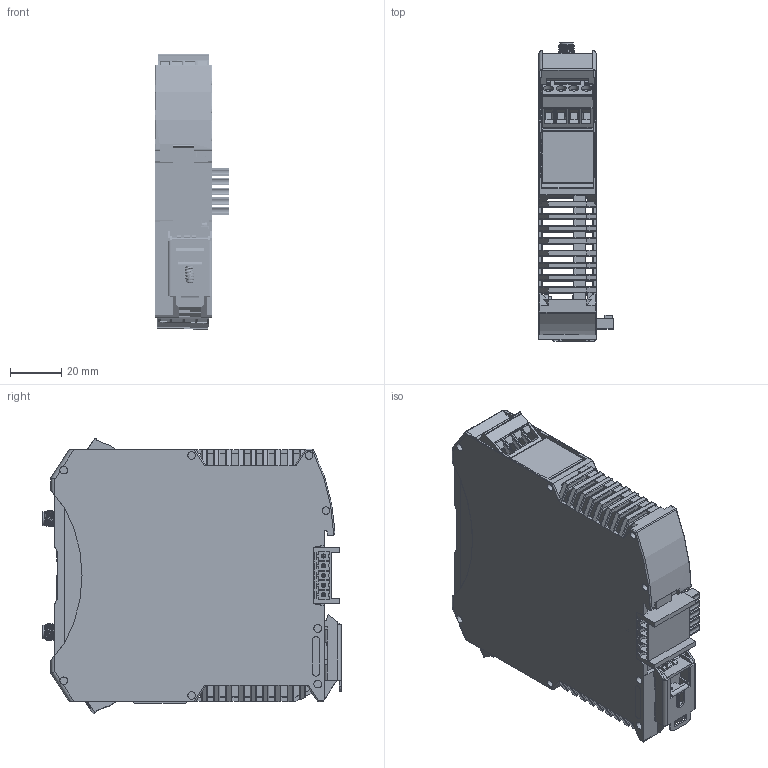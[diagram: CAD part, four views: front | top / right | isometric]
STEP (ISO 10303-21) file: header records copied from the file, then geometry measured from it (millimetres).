
FILE_DESCRIPTION(('STEP AP214'), '1');
FILE_NAME('NLS-Gateway-Zigbee-1RS-1CAN-PoE â ñòåïêó', '', ('UNSPECIFIED'), ('UNSPECIFIED'), 'C3D Converter', 'C3D Toolkit', '');
FILE_SCHEMA(('AUTOMOTIVE_DESIGN { 1 0 10303 214 3 1 1}'));
Length unit declared in the file: millimetre
Bounding box: 29.21 x 116.8 x 107.99 mm (x, y, z)
Volume: 67669.4 mm3; surface area: 96928.6 mm2
Topology: 7 solids, 41 shells, 6695 faces, 18516 edges, 12121 vertices
Faces by surface type: plane 4052, cylinder 1259, extrusion 1209, cone 92, bspline 30, torus 27, sphere 22, revolution 4
Full cylindrical faces by diameter (mm): 0.3 x208, 0.4 x34, 0.6 x6, 0.8 x3, 0.9 x20, 0.92 x4, 0.95 x1, 0.953 x2, 1 x22, 1.02 x4, 1.06 x2, 1.1 x1, 1.2 x1, 1.27 x4, 1.35 x4, 1.4 x10, 1.6 x20, 1.7 x12, 2 x9, 2.2 x8, 2.5 x1, 2.6 x6, 2.8 x8, 3 x16, 3.25 x2, 3.796 x8, 4 x8, 4.102 x2, 4.5 x1, 4.521 x2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
Entity records: 286331 total; most frequent: CARTESIAN_POINT 66137, ORIENTED_EDGE 36055, DIRECTION 29635, EDGE_CURVE 18029, VECTOR 13823, LINE 12614, VERTEX_POINT 12202, EDGE_LOOP 8275
